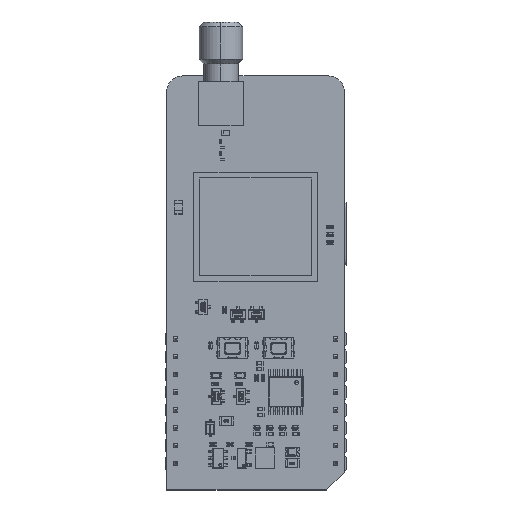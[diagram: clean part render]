
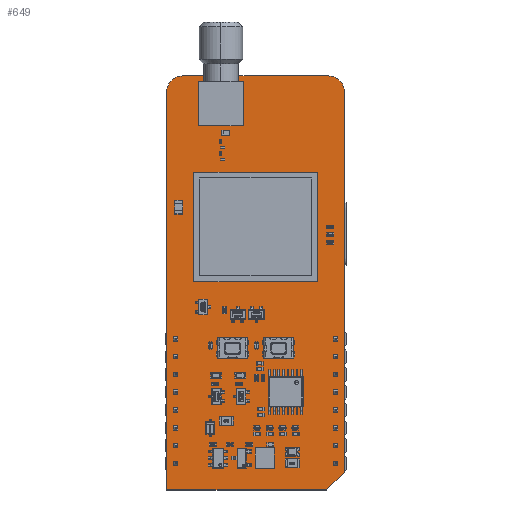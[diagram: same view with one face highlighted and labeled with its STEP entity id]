
A CAD part, top view. The second image highlights one B-rep face of the part: STEP entity #649.
In plain terms, the highlighted planar face has unit normal (0, 0, 1).
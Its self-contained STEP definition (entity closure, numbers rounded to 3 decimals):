
#420 = VERTEX_POINT('',#421);
#421 = CARTESIAN_POINT('',(-1.27,-3.81,1.65));
#427 = EDGE_CURVE('',#420,#428,#430,.T.);
#428 = VERTEX_POINT('',#429);
#429 = CARTESIAN_POINT('',(-1.27,53.086,1.65));
#430 = LINE('',#431,#432);
#431 = CARTESIAN_POINT('',(-1.27,-3.81,1.65));
#432 = VECTOR('',#433,1.);
#433 = DIRECTION('',(0.,1.,0.));
#458 = EDGE_CURVE('',#428,#459,#461,.T.);
#459 = VERTEX_POINT('',#460);
#460 = CARTESIAN_POINT('',(1.016,55.372,1.65));
#461 = CIRCLE('',#462,2.288);
#462 = AXIS2_PLACEMENT_3D('',#463,#464,#465);
#463 = CARTESIAN_POINT('',(1.018,53.084,1.65));
#464 = DIRECTION('',(0.,0.,-1.));
#465 = DIRECTION('',(-1.,0.001,0.));
#491 = EDGE_CURVE('',#459,#492,#494,.T.);
#492 = VERTEX_POINT('',#493);
#493 = CARTESIAN_POINT('',(21.844,55.372,1.65));
#494 = LINE('',#495,#496);
#495 = CARTESIAN_POINT('',(1.016,55.372,1.65));
#496 = VECTOR('',#497,1.);
#497 = DIRECTION('',(1.,0.,0.));
#522 = EDGE_CURVE('',#492,#523,#525,.T.);
#523 = VERTEX_POINT('',#524);
#524 = CARTESIAN_POINT('',(24.13,53.086,1.65));
#525 = CIRCLE('',#526,2.288);
#526 = AXIS2_PLACEMENT_3D('',#527,#528,#529);
#527 = CARTESIAN_POINT('',(21.842,53.084,1.65));
#528 = DIRECTION('',(0.,0.,-1.));
#529 = DIRECTION('',(0.001,1.,0.));
#555 = EDGE_CURVE('',#523,#556,#558,.T.);
#556 = VERTEX_POINT('',#557);
#557 = CARTESIAN_POINT('',(24.13,-1.27,1.65));
#558 = LINE('',#559,#560);
#559 = CARTESIAN_POINT('',(24.13,53.086,1.65));
#560 = VECTOR('',#561,1.);
#561 = DIRECTION('',(0.,-1.,0.));
#586 = EDGE_CURVE('',#556,#587,#589,.T.);
#587 = VERTEX_POINT('',#588);
#588 = CARTESIAN_POINT('',(21.59,-3.81,1.65));
#589 = LINE('',#590,#591);
#590 = CARTESIAN_POINT('',(24.13,-1.27,1.65));
#591 = VECTOR('',#592,1.);
#592 = DIRECTION('',(-0.707,-0.707,0.));
#617 = EDGE_CURVE('',#587,#420,#618,.T.);
#618 = LINE('',#619,#620);
#619 = CARTESIAN_POINT('',(21.59,-3.81,1.65));
#620 = VECTOR('',#621,1.);
#621 = DIRECTION('',(-1.,0.,0.));
#649 = ADVANCED_FACE('',(#650),#659,.F.);
#650 = FACE_BOUND('',#651,.F.);
#651 = EDGE_LOOP('',(#652,#653,#654,#655,#656,#657,#658));
#652 = ORIENTED_EDGE('',*,*,#427,.T.);
#653 = ORIENTED_EDGE('',*,*,#458,.T.);
#654 = ORIENTED_EDGE('',*,*,#491,.T.);
#655 = ORIENTED_EDGE('',*,*,#522,.T.);
#656 = ORIENTED_EDGE('',*,*,#555,.T.);
#657 = ORIENTED_EDGE('',*,*,#586,.T.);
#658 = ORIENTED_EDGE('',*,*,#617,.T.);
#659 = PLANE('',#660);
#660 = AXIS2_PLACEMENT_3D('',#661,#662,#663);
#661 = CARTESIAN_POINT('',(11.308,25.684,1.65));
#662 = DIRECTION('',(-0.,-0.,-1.));
#663 = DIRECTION('',(-1.,0.,0.));
